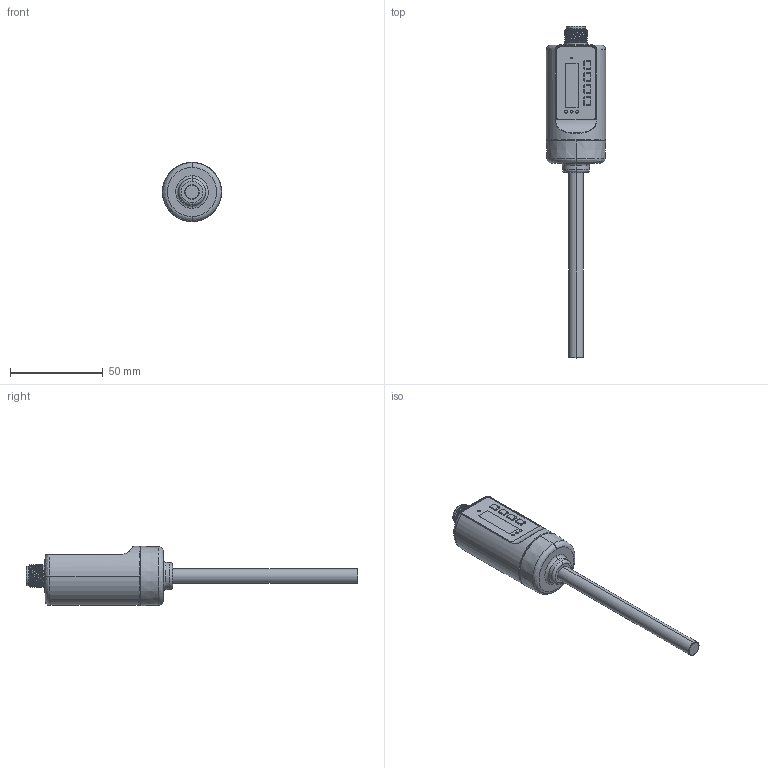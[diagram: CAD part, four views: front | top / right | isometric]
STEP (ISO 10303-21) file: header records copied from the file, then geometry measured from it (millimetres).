
FILE_DESCRIPTION (( 'STEP AP214' ), '1' );
FILE_NAME ('FTS-I100F14#-S251655.STEP', '2022-02-28T21:18:23', ( '' ), ( '' ), 'SwSTEP 2.0', 'SolidWorks 2019', '' );
FILE_SCHEMA (( 'AUTOMOTIVE_DESIGN' ));
Length unit declared in the file: millimetre
Products named in the file (1): FTS-I100F14#-S251655
Bounding box: 32 x 179 x 32 mm (x, y, z)
Volume: 53916.8 mm3; surface area: 11603.4 mm2
Topology: 1 solids, 5 shells, 374 faces, 932 edges, 600 vertices
Faces by surface type: plane 170, cylinder 97, bspline 78, cone 27, torus 2
Entity records: 19528 total; most frequent: CARTESIAN_POINT 8492, ORIENTED_EDGE 1864, DIRECTION 1643, EDGE_CURVE 932, VERTEX_POINT 600, AXIS2_PLACEMENT_3D 559, LINE 525, VECTOR 525
